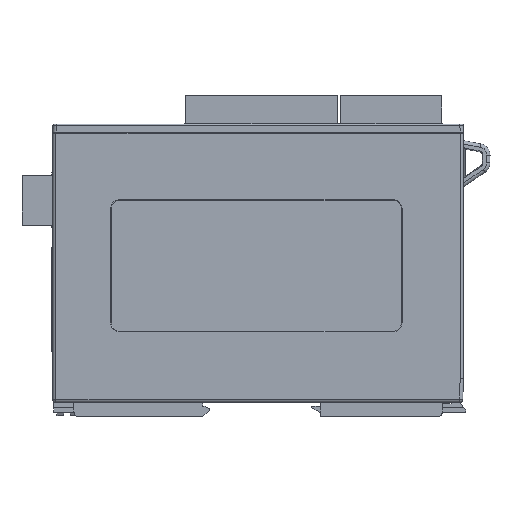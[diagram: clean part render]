
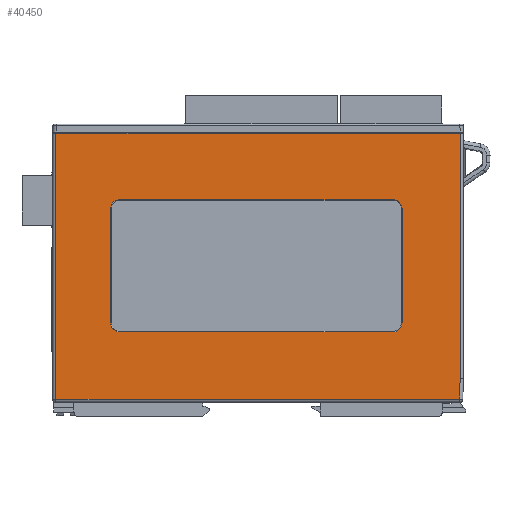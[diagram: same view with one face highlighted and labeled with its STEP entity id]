
A CAD part, front view. The second image highlights one B-rep face of the part: STEP entity #40450.
In plain terms, the highlighted planar face has unit normal (0, -1, 0).
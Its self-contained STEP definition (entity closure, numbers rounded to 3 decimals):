
#22767=DIRECTION('',(0.,0.,1.));
#22768=VECTOR('',#22767,80.3);
#22769=CARTESIAN_POINT('',(-60.5,-13.5,-41.));
#22770=LINE('',#22769,#22768);
#22775=DIRECTION('',(0.035,0.,0.999));
#22776=VECTOR('',#22775,6.321);
#22777=CARTESIAN_POINT('',(61.279,-13.5,-41.));
#22778=LINE('',#22777,#22776);
#22779=DIRECTION('',(-1.,0.,0.));
#22780=VECTOR('',#22779,122.);
#22781=CARTESIAN_POINT('',(61.5,-13.5,39.3));
#22782=LINE('',#22781,#22780);
#22783=CARTESIAN_POINT('',(-41.25,-13.5,16.5));
#22784=DIRECTION('',(0.,1.,0.));
#22785=DIRECTION('',(-1.,0.,0.));
#22786=AXIS2_PLACEMENT_3D('',#22783,#22784,#22785);
#22788=CARTESIAN_POINT('',(-41.25,-13.5,-18.));
#22789=DIRECTION('',(0.,1.,0.));
#22790=DIRECTION('',(0.,0.,-1.));
#22791=AXIS2_PLACEMENT_3D('',#22788,#22789,#22790);
#22793=CARTESIAN_POINT('',(41.25,-13.5,-18.));
#22794=DIRECTION('',(0.,1.,0.));
#22795=DIRECTION('',(1.,0.,0.));
#22796=AXIS2_PLACEMENT_3D('',#22793,#22794,#22795);
#22798=CARTESIAN_POINT('',(41.25,-13.5,16.5));
#22799=DIRECTION('',(0.,1.,0.));
#22800=DIRECTION('',(0.,0.,1.));
#22801=AXIS2_PLACEMENT_3D('',#22798,#22799,#22800);
#22853=DIRECTION('',(-1.,0.,0.));
#22854=VECTOR('',#22853,121.779);
#22855=CARTESIAN_POINT('',(61.279,-13.5,-41.));
#22856=LINE('',#22855,#22854);
#25189=DIRECTION('',(0.,0.,-1.));
#25190=VECTOR('',#25189,73.983);
#25191=CARTESIAN_POINT('',(61.5,-13.5,39.3));
#25192=LINE('',#25191,#25190);
#27577=DIRECTION('',(-1.,0.,0.));
#27578=VECTOR('',#27577,82.5);
#27579=CARTESIAN_POINT('',(41.25,-13.5,
19.216));
#27580=LINE('',#27579,#27578);
#27609=DIRECTION('',(0.,0.,-1.));
#27610=VECTOR('',#27609,34.5);
#27611=CARTESIAN_POINT('',(-43.966,-13.5,
16.5));
#27612=LINE('',#27611,#27610);
#27627=DIRECTION('',(1.,0.,0.));
#27628=VECTOR('',#27627,82.5);
#27629=CARTESIAN_POINT('',(-41.25,-13.5,
-20.716));
#27630=LINE('',#27629,#27628);
#27652=DIRECTION('',(0.,0.,1.));
#27653=VECTOR('',#27652,34.5);
#27654=CARTESIAN_POINT('',(43.966,-13.5,
-18.));
#27655=LINE('',#27654,#27653);
#31360=CARTESIAN_POINT('',(61.279,-13.5,-41.));
#31361=CARTESIAN_POINT('',(61.5,-13.5,-34.683));
#31362=VERTEX_POINT('',#31360);
#31363=VERTEX_POINT('',#31361);
#31366=CARTESIAN_POINT('',(41.25,-13.5,
19.216));
#31367=CARTESIAN_POINT('',(-41.25,-13.5,
19.216));
#31368=VERTEX_POINT('',#31366);
#31369=VERTEX_POINT('',#31367);
#31370=CARTESIAN_POINT('',(61.5,-13.5,39.3));
#31371=VERTEX_POINT('',#31370);
#31372=CARTESIAN_POINT('',(-60.5,-13.5,-41.));
#31373=VERTEX_POINT('',#31372);
#31380=CARTESIAN_POINT('',(43.966,-13.5,
16.5));
#31381=VERTEX_POINT('',#31380);
#31382=CARTESIAN_POINT('',(-43.966,-13.5,
16.5));
#31383=VERTEX_POINT('',#31382);
#31384=CARTESIAN_POINT('',(-60.5,-13.5,39.3));
#31385=VERTEX_POINT('',#31384);
#31395=CARTESIAN_POINT('',(43.966,-13.5,
-18.));
#31396=VERTEX_POINT('',#31395);
#31397=CARTESIAN_POINT('',(-43.966,-13.5,
-18.));
#31398=VERTEX_POINT('',#31397);
#31422=CARTESIAN_POINT('',(41.25,-13.5,
-20.716));
#31423=VERTEX_POINT('',#31422);
#31426=CARTESIAN_POINT('',(-41.25,-13.5,
-20.716));
#31427=VERTEX_POINT('',#31426);
#40416=CARTESIAN_POINT('',(0.,-13.5,0.));
#40417=DIRECTION('',(0.,1.,0.));
#40418=DIRECTION('',(1.,0.,0.));
#40419=AXIS2_PLACEMENT_3D('',#40416,#40417,#40418);
#40420=PLANE('',#40419);
#40422=ORIENTED_EDGE('',*,*,#40421,.F.);
#40424=ORIENTED_EDGE('',*,*,#40423,.T.);
#40425=ORIENTED_EDGE('',*,*,#40406,.T.);
#40427=ORIENTED_EDGE('',*,*,#40426,.F.);
#40429=ORIENTED_EDGE('',*,*,#40428,.T.);
#40430=EDGE_LOOP('',(#40422,#40424,#40425,#40427,#40429));
#40431=FACE_OUTER_BOUND('',#40430,.F.);
#40433=ORIENTED_EDGE('',*,*,#40432,.T.);
#40435=ORIENTED_EDGE('',*,*,#40434,.F.);
#40437=ORIENTED_EDGE('',*,*,#40436,.T.);
#40439=ORIENTED_EDGE('',*,*,#40438,.F.);
#40441=ORIENTED_EDGE('',*,*,#40440,.T.);
#40443=ORIENTED_EDGE('',*,*,#40442,.F.);
#40445=ORIENTED_EDGE('',*,*,#40444,.T.);
#40447=ORIENTED_EDGE('',*,*,#40446,.F.);
#40448=EDGE_LOOP('',(#40433,#40435,#40437,#40439,#40441,#40443,#40445,#40447));
#40449=FACE_BOUND('',#40448,.F.);
#40450=ADVANCED_FACE('',(#40431,#40449),#40420,.F.);
#22787=CIRCLE('',#22786,2.716);
#22792=CIRCLE('',#22791,2.716);
#22797=CIRCLE('',#22796,2.716);
#22802=CIRCLE('',#22801,2.716);
#40406=EDGE_CURVE('',#31373,#31385,#22770,.T.);
#40421=EDGE_CURVE('',#31362,#31363,#22778,.T.);
#40423=EDGE_CURVE('',#31362,#31373,#22856,.T.);
#40426=EDGE_CURVE('',#31371,#31385,#22782,.T.);
#40428=EDGE_CURVE('',#31371,#31363,#25192,.T.);
#40432=EDGE_CURVE('',#31368,#31369,#27580,.T.);
#40434=EDGE_CURVE('',#31383,#31369,#22787,.T.);
#40436=EDGE_CURVE('',#31383,#31398,#27612,.T.);
#40438=EDGE_CURVE('',#31427,#31398,#22792,.T.);
#40440=EDGE_CURVE('',#31427,#31423,#27630,.T.);
#40442=EDGE_CURVE('',#31396,#31423,#22797,.T.);
#40444=EDGE_CURVE('',#31396,#31381,#27655,.T.);
#40446=EDGE_CURVE('',#31368,#31381,#22802,.T.);
